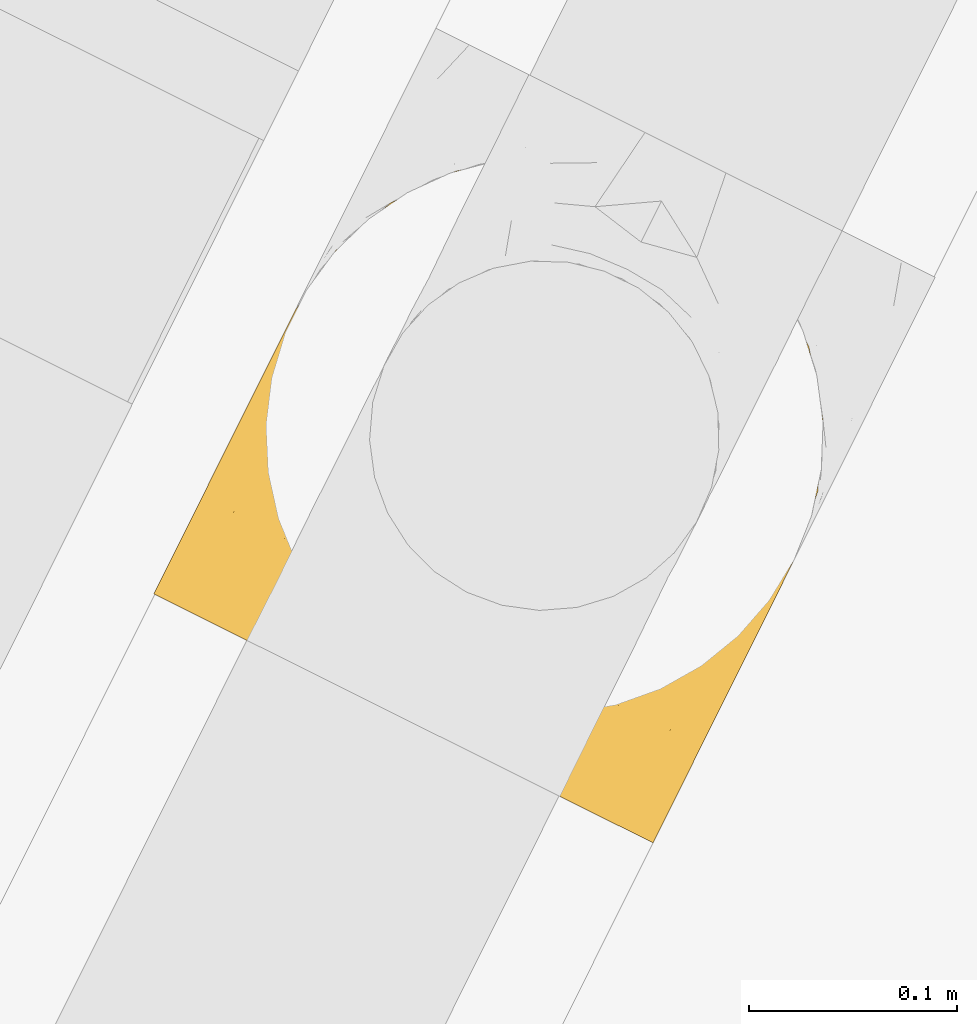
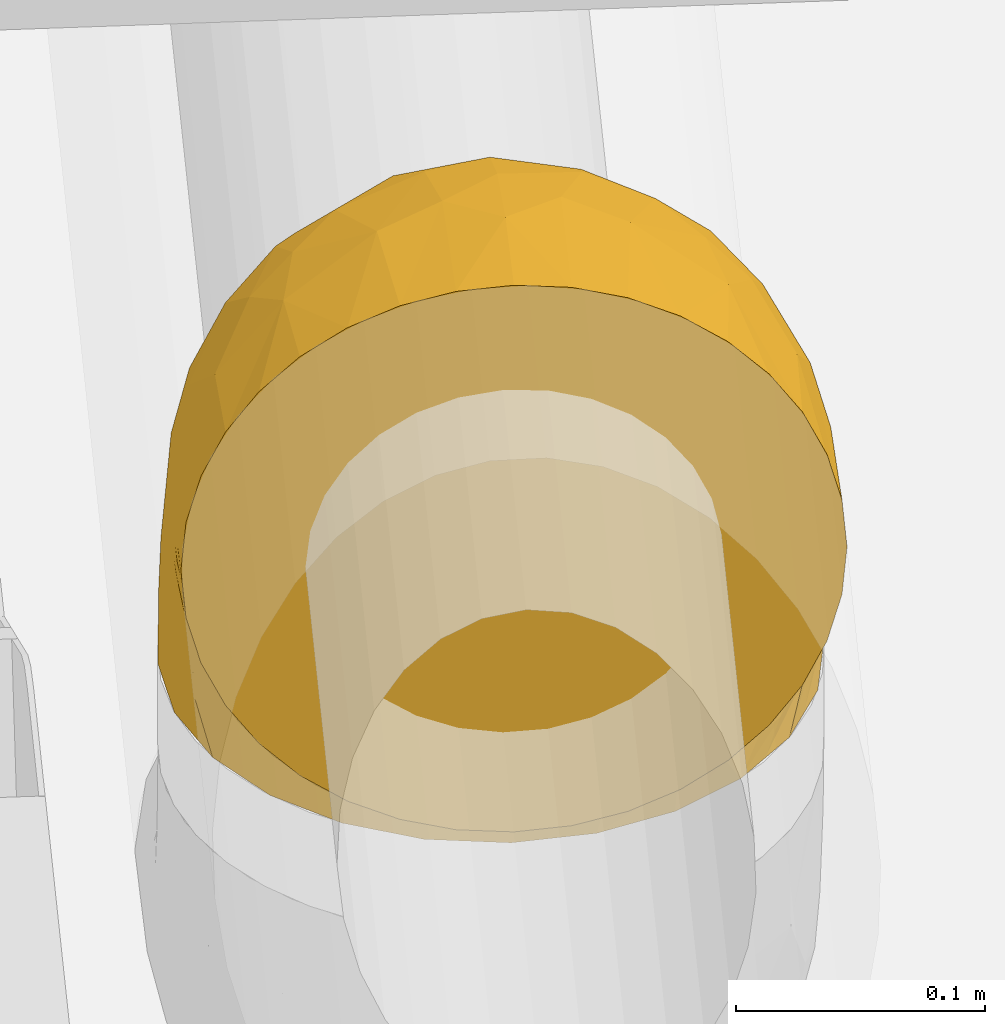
# One storey, part 48 of 91: 1 covering.
"""IFC2X3 building model written with IfcOpenShell, lengths in metres."""

import ifcopenshell
import ifcopenshell.guid

model = None  # the IFC model being written
_history = None  # IfcOwnerHistory: only IFC2X3 demands one
_inside = {}  # id of a spatial element -> (the spatial element, [elements in it])
_under = {}  # id of a project, library or spatial element -> (it, [spatial elements below it])
_declared = {}  # id of a project -> (the project, [libraries it declares])
_typed = {}  # id of a type object -> (the type object, [elements of that type])
_made_of = {}  # id of a material, layer set ... -> (it, [elements and type objects made of it])


def new_model(schema):
    """Start an empty IFC model of exactly this schema.

    Asked for "IFC4X3", IfcOpenShell would pick the latest addendum, in which some entities
    have other attributes; the version numbers below select the first issue.
    IFC2X3 requires an IfcOwnerHistory on every rooted entity: one is made here for all.
    """
    global model, _history
    if schema == "IFC4X3":
        model = ifcopenshell.file(schema_version=(4, 3, 0, 0))
    else:
        model = ifcopenshell.file(schema=schema)
    _inside.clear()
    _under.clear()
    _declared.clear()
    _typed.clear()
    _made_of.clear()
    _history = None
    if model.schema == "IFC2X3":
        org = make("IfcOrganization", Name="unknown")
        user = make(
            "IfcPersonAndOrganization",
            ThePerson=make("IfcPerson", FamilyName="unknown"),
            TheOrganization=org,
        )
        app = make(
            "IfcApplication",
            ApplicationDeveloper=org,
            Version="unknown",
            ApplicationFullName="unknown",
            ApplicationIdentifier="unknown",
        )
        _history = make(
            "IfcOwnerHistory",
            OwningUser=user,
            OwningApplication=app,
            ChangeAction="ADDED",
            CreationDate=0,
        )
    return model


def make(cls, **values):
    """One entity of the class cls with the attributes given. An attribute that is None is left unset."""
    return model.create_entity(
        cls, **{name: value for name, value in values.items() if value is not None}
    )


def entity(cls, *values):
    """Any entity or typed value of the class cls, its attributes in the order of the schema. None: left unset."""
    e = model.create_entity(cls)
    for i, value in enumerate(values):
        if value is not None:
            e[i] = value
    return e


def rooted(cls, **values):
    """An entity with a GlobalId (a new one), such as an element, a storey or a relation."""
    return make(cls, GlobalId=ifcopenshell.guid.new(), OwnerHistory=_history, **values)


def si_unit(unit_type, name, prefix=None):
    """IfcSIUnit, for example si_unit("LENGTHUNIT", "METRE", prefix="MILLI")."""
    return make("IfcSIUnit", UnitType=unit_type, Prefix=prefix, Name=name)


def converted_unit(unit_type, name, factor, base, dimensions=None, offset=None):
    """IfcConversionBasedUnit, such as the inch: factor (a typed value) times the base unit."""
    return make(
        "IfcConversionBasedUnit"
        if offset is None
        else "IfcConversionBasedUnitWithOffset",
        ConversionOffset=offset,
        Dimensions=None
        if dimensions is None
        else entity("IfcDimensionalExponents", *dimensions),
        UnitType=unit_type,
        Name=name,
        ConversionFactor=make(
            "IfcMeasureWithUnit", ValueComponent=factor, UnitComponent=base
        ),
    )


def derived_unit(unit_type, elements):
    """IfcDerivedUnit: a product of units, each with its exponent."""
    return make(
        "IfcDerivedUnit",
        Elements=[
            make("IfcDerivedUnitElement", Unit=unit, Exponent=power)
            for unit, power in elements
        ],
        UnitType=unit_type,
    )


def assignment(units):
    """IfcUnitAssignment: the units of a project."""
    return None if units is None else make("IfcUnitAssignment", Units=units)


def point(xyz):
    """IfcCartesianPoint."""
    return None if xyz is None else make("IfcCartesianPoint", Coordinates=xyz)


def direction(xyz):
    """IfcDirection."""
    return None if xyz is None else make("IfcDirection", DirectionRatios=xyz)


def frame(location, z_axis=None, x_axis=None):
    """IfcAxis2Placement3D, a coordinate frame: its origin and axes. An axis left out is left unset."""
    return make(
        "IfcAxis2Placement3D",
        Location=point(location),
        Axis=direction(z_axis),
        RefDirection=direction(x_axis),
    )


def origin():
    """The frame at (0, 0, 0) with its axes left unset."""
    return frame((0.0, 0.0, 0.0))


def place(relative_to, where):
    """IfcLocalPlacement: puts the frame where relative to a parent placement (None: the world)."""
    return make(
        "IfcLocalPlacement", PlacementRelTo=relative_to, RelativePlacement=where
    )


def context(
    kind, dimensions, precision=None, world=None, true_north=None, identifier=None
):
    """IfcGeometricRepresentationContext, for example the 3D "Model" context."""
    return make(
        "IfcGeometricRepresentationContext",
        ContextIdentifier=identifier,
        ContextType=kind,
        CoordinateSpaceDimension=dimensions,
        Precision=precision,
        WorldCoordinateSystem=world,
        TrueNorth=true_north,
    )


def subcontext(parent, identifier, kind, view, scale=None):
    """IfcGeometricRepresentationSubContext, for example "Body" below "Model"."""
    return make(
        "IfcGeometricRepresentationSubContext",
        ContextIdentifier=identifier,
        ContextType=kind,
        ParentContext=parent,
        TargetScale=scale,
        TargetView=view,
    )


def project(units=None, contexts=None):
    """IfcProject with its units and contexts."""
    return rooted(
        "IfcProject",
        Name="project",
        RepresentationContexts=contexts,
        UnitsInContext=assignment(units),
    )


def spatial(cls, under=None, at=None, **own):
    """A site, building, storey or space (cls), placed at a placement, below another one or the project."""
    s = rooted(cls, ObjectPlacement=at, **own)
    if under is not None:
        _under.setdefault(under.id(), (under, []))[1].append(s)
    return s


def faces_of(points, faces, orient=None, outer=None):
    """IfcFace entities. A face is a list of loops; a loop is a list of indices into points, from 0.

    orient and outer hold one flag for each loop. By default every Orientation is true, the
    first loop of a face is its IfcFaceOuterBound and the others are IfcFaceBound.
    """
    made = []
    for i, loops in enumerate(faces):
        bounds = []
        for j, loop in enumerate(loops):
            is_outer = j == 0 if outer is None else outer[i][j]
            bounds.append(
                make(
                    "IfcFaceOuterBound" if is_outer else "IfcFaceBound",
                    Bound=make("IfcPolyLoop", Polygon=[points[k] for k in loop]),
                    Orientation=True if orient is None else orient[i][j],
                )
            )
        made.append(make("IfcFace", Bounds=bounds))
    return made


def faceted_brep(points, faces, orient=None, outer=None, voids=None):
    """IfcFacetedBrep: a solid bounded by flat faces; with voids (closed shells), ...WithVoids."""
    shared = [point(p) for p in points]
    hull = make("IfcClosedShell", CfsFaces=faces_of(shared, faces, orient, outer))
    if voids is None:
        return make("IfcFacetedBrep", Outer=hull)
    return make(
        "IfcFacetedBrepWithVoids",
        Outer=hull,
        Voids=[
            make(cls, CfsFaces=faces_of(shared, fs, o, b)) for cls, fs, o, b in voids
        ],
    )


def shape(context_of_items, identifier, shape_type, items):
    """IfcShapeRepresentation: the items that make up one representation, for example the "Body"."""
    return make(
        "IfcShapeRepresentation",
        ContextOfItems=context_of_items,
        RepresentationIdentifier=identifier,
        RepresentationType=shape_type,
        Items=items,
    )


def made_of(thing, what):
    """Note that an element or type object is made of a material, layer set ...; save() writes the relation."""
    if what is not None:
        _made_of.setdefault(what.id(), (what, []))[1].append(thing)
    return thing


def element(
    cls,
    number,
    at=None,
    inside=None,
    cuts=None,
    type_object=None,
    material=None,
    context=None,
    identifier="Body",
    shape_type=None,
    held_by="IfcProductDefinitionShape",
    body=None,
    shapes=None,
    **own,
):
    """One element of the class cls, such as IfcWall. Its Tag is "e" and its number.

    at: its placement. inside: the storey or other place that contains it. cuts: it is an
    opening in that element (IfcRelVoidsElement). A single representation is given by context,
    identifier, shape_type and body (its items); several are given by shapes. held_by: the class
    of the entity that holds the representations. save() writes the other relations.
    """
    e = rooted(cls, Tag="e%d" % number, ObjectPlacement=at, **own)
    if body is not None:
        shapes = [shape(context, identifier, shape_type, body)]
    if shapes is not None:
        e.Representation = make(held_by, Representations=shapes)
    if inside is not None:
        _inside.setdefault(inside.id(), (inside, []))[1].append(e)
    if cuts is not None:
        rooted(
            "IfcRelVoidsElement", RelatingBuildingElement=cuts, RelatedOpeningElement=e
        )
    if type_object is not None:
        _typed.setdefault(type_object.id(), (type_object, []))[1].append(e)
    return made_of(e, material)


def aggregate(whole, parts):
    """IfcRelAggregates: a whole, such as a stair, and the parts it consists of."""
    return rooted("IfcRelAggregates", RelatingObject=whole, RelatedObjects=parts)


def save(model, path):
    """Write the relations noted so far, then the file.

    IfcRelAggregates (storeys below a building ...), IfcRelContainedInSpatialStructure (elements
    in a storey), IfcRelDefinesByType, IfcRelAssociatesMaterial and IfcRelDeclares: one each for
    every whole, place, type object, material and project.
    """
    for whole, parts in _under.values():
        aggregate(whole, parts)
    for where, things in _inside.values():
        rooted(
            "IfcRelContainedInSpatialStructure",
            RelatedElements=things,
            RelatingStructure=where,
        )
    for kind, things in _typed.values():
        rooted("IfcRelDefinesByType", RelatedObjects=things, RelatingType=kind)
    for what, things in _made_of.values():
        rooted("IfcRelAssociatesMaterial", RelatedObjects=things, RelatingMaterial=what)
    for by, libraries in _declared.values():
        rooted("IfcRelDeclares", RelatingContext=by, RelatedDefinitions=libraries)
    model.write(path)


model = new_model("IFC2X3")

# Units and contexts
model_context = context("Model", 3, precision=1e-05, world=origin(), true_north=direction((0.894925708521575, 0.446215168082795)))
context_of_model = context(None, 3, precision=1e-05, world=origin(), true_north=direction((0.894925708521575, 0.446215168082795)))
body_context = subcontext(model_context, "Body", "Model", "MODEL_VIEW")
ifc_project = project(units=[si_unit("LENGTHUNIT", "METRE"), si_unit("AREAUNIT", "SQUARE_METRE"), si_unit("VOLUMEUNIT", "CUBIC_METRE"), converted_unit("PLANEANGLEUNIT", "DEGREE", entity("IfcRatioMeasure", 0.0174532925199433), si_unit("PLANEANGLEUNIT", "RADIAN"), dimensions=[0, 0, 0, 0, 0, 0, 0]), si_unit("MASSUNIT", "GRAM", prefix="KILO"), si_unit("TIMEUNIT", "SECOND"), si_unit("FREQUENCYUNIT", "HERTZ"), si_unit("THERMODYNAMICTEMPERATUREUNIT", "DEGREE_CELSIUS"), derived_unit("THERMALTRANSMITTANCEUNIT", [(si_unit("MASSUNIT", "GRAM", prefix="KILO"), 1), (si_unit("THERMODYNAMICTEMPERATUREUNIT", "KELVIN"), -1), (si_unit("TIMEUNIT", "SECOND"), -3)]), derived_unit("VOLUMETRICFLOWRATEUNIT", [(si_unit("LENGTHUNIT", "METRE"), 3), (si_unit("TIMEUNIT", "SECOND"), -1)]), si_unit("ELECTRICCURRENTUNIT", "AMPERE"), si_unit("ELECTRICVOLTAGEUNIT", "VOLT"), si_unit("POWERUNIT", "WATT"), si_unit("FORCEUNIT", "NEWTON", prefix="KILO"), si_unit("ILLUMINANCEUNIT", "LUX"), si_unit("LUMINOUSFLUXUNIT", "LUMEN"), si_unit("LUMINOUSINTENSITYUNIT", "CANDELA"), si_unit("PRESSUREUNIT", "PASCAL")], contexts=[model_context, context_of_model])

# Site, building, storey
site_placement = place(None, frame((218.228324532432, 584.720189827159, 0.0), z_axis=(0.0, 0.0, 1.0), x_axis=(0.446215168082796, 0.894925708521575, 0.0)))
site = spatial("IfcSite", under=ifc_project, at=site_placement, Name="Default", CompositionType="ELEMENT")
building_placement = place(site_placement, origin())
building = spatial("IfcBuilding", under=site, at=building_placement, CompositionType="ELEMENT")
storey_placement = place(building_placement, origin())
storey = spatial("IfcBuildingStorey", under=building, at=storey_placement, Name="0 - Piano Terra", CompositionType="ELEMENT", Elevation=0.0)

# Covering
covering_placement = place(storey_placement, frame((-13.5826692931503, -4.52096176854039, 3.74640472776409)))
element("IfcCovering", 1, at=covering_placement, inside=storey, Name="Isolamento tubazione:Default", ObjectType="Isolamento tubazione:Default", PredefinedType="INSULATION", context=body_context, shape_type="Brep", body=[
    faceted_brep([(0.00159527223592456, 0.00968458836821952, 0.199474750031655), (0.00159527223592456, 0.0195677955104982, 0.220669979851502), (0.00159527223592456, 0.0329822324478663, 0.239827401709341), (0.00159527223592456, 0.0495196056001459, 0.256363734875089), (0.00159527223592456, 0.0686761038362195, 0.269775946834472), (0.00159527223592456, 0.0898679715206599, 0.27965674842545), (0.00159527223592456, 0.112451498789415, 0.285707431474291), (0.00159527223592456, 0.135745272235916, 0.287745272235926), (0.00159527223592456, 0.159037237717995, 0.285707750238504), (0.00159527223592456, 0.181624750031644, 0.279655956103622), (0.00159527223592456, 0.202819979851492, 0.269772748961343), (0.00159527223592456, 0.22197740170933, 0.256358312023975), (0.00159527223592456, 0.238513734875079, 0.239820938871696), (0.00159527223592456, 0.251925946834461, 0.220664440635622), (0.00159527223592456, 0.26180674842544, 0.199472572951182), (0.00159527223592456, 0.267857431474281, 0.176889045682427), (0.00159527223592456, 0.269895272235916, 0.153595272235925), (0.00159527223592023, 0.268609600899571, 0.138898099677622), (0.00159527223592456, 0.267857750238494, 0.130303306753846), (0.00159527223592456, 0.261805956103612, 0.107715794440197), (0.00159527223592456, 0.251922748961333, 0.0865205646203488), (0.00159527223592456, 0.238508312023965, 0.0673631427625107), (0.00159527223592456, 0.221970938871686, 0.0508268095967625), (0.00159527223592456, 0.202814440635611, 0.0374145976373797), (0.00159527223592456, 0.181622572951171, 0.0275337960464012), (0.00159527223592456, 0.159039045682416, 0.0214831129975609), (0.00159527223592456, 0.135745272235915, 0.0194452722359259), (0.00159527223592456, 0.112453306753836, 0.0214827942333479), (0.00159527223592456, 0.0898657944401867, 0.0275345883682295), (0.00159527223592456, 0.0686705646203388, 0.0374177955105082), (0.00159527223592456, 0.0495131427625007, 0.0508322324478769), (0.00159527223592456, 0.0329768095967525, 0.0673696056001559), (0.00159527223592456, 0.0195645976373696, 0.0865261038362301), (0.00159527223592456, 0.00968379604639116, 0.10771797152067), (0.00159527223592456, 0.00363311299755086, 0.130301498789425), (0.00159527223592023, 0.00288104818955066, 0.138898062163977), (0.00159527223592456, 0.0015952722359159, 0.153595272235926), (0.00159527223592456, 0.00363279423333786, 0.176887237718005), (0.0194452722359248, 0.135745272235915, 0.0015952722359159), (0.024016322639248, 0.170465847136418, 0.0015952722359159), (0.0374179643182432, 0.202820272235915, 0.0015952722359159), (0.0587368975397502, 0.230603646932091, 0.0015952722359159), (0.0726285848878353, 0.241263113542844, 0.0015952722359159), (0.0865202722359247, 0.251922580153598, 0.0015952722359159), (0.102697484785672, 0.258623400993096, 0.0015952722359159), (0.118874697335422, 0.265324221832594, 0.0015952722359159), (0.138673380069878, 0.267930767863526, 0.00159527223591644), (0.153595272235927, 0.269895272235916, 0.00159527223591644), (0.188315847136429, 0.265324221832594, 0.00159527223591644), (0.220670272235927, 0.251922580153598, 0.00159527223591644), (0.248453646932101, 0.230603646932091, 0.00159527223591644), (0.269772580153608, 0.202820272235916, 0.00159527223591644), (0.283174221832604, 0.170465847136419, 0.00159527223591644), (0.287745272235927, 0.135745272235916, 0.00159527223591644), (0.283174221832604, 0.101024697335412, 0.00159527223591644), (0.269772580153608, 0.0686702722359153, 0.00159527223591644), (0.248453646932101, 0.0408868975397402, 0.00159527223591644), (0.220670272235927, 0.0195679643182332, 0.00159527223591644), (0.188315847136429, 0.00616632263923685, 0.00159527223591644), (0.153595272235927, 0.00159527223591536, 0.00159527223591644), (0.138673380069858, 0.00355977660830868, 0.00159527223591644), (0.118874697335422, 0.00616632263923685, 0.0015952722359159), (0.102697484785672, 0.0128671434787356, 0.00159527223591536), (0.0865202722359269, 0.0195679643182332, 0.0015952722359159), (0.0726285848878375, 0.0302274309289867, 0.0015952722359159), (0.0587368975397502, 0.0408868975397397, 0.0015952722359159), (0.0374179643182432, 0.0686702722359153, 0.0015952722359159), (0.024016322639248, 0.101024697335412, 0.0015952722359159), (0.271314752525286, 0.0978975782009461, 0.0793389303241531), (0.282246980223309, 0.135745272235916, 0.0574203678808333), (0.265963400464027, 0.135745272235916, 0.11110013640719), (0.0574203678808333, 0.135745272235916, 0.282246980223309), (0.082098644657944, 0.11177261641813, 0.273936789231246), (0.11110013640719, 0.135745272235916, 0.265963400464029), (0.130709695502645, 0.100505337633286, 0.251669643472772), (0.125328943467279, 0.0712492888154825, 0.241156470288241), (0.17905625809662, 0.0978507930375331, 0.219063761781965), (0.248670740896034, 0.103999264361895, 0.138231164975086), (0.242351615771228, 0.0722251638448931, 0.124159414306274), (0.206901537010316, 0.0160910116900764, 0.0570178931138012), (0.184829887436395, 0.058552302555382, 0.188464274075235), (0.138701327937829, 0.0480332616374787, 0.214821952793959), (0.13351854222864, 0.0275482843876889, 0.191593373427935), (0.231170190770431, 0.0374034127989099, 0.0819819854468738), (0.239520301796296, 0.135745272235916, 0.16057169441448), (0.0963262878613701, 0.0106572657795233, 0.178269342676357), (0.14415060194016, 0.0137471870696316, 0.152774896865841), (0.203933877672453, 0.135745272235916, 0.203933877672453), (0.16057169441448, 0.135745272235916, 0.239520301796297), (0.174453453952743, 0.00879690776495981, 0.0926265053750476), (0.174763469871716, 0.00413805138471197, 0.0427674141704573), (0.257512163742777, 0.0597755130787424, 0.0603098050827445), (0.089085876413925, 0.0346326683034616, 0.225253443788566), (0.195203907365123, 0.0201514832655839, 0.106232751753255), (0.148415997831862, 0.0015952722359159, 0.0409357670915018), (0.150075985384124, 0.0015952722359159, 0.028326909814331), (0.151735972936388, 0.0015952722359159, 0.0157180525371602), (0.133231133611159, 0.0015952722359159, 0.0775952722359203), (0.14082356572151, 0.0015952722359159, 0.0592655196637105), (0.0542155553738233, 0.0184912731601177, 0.212298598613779), (0.216229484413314, 0.0852623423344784, 0.175571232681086), (0.221437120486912, 0.112239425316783, 0.181506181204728), (0.114385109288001, 0.00457586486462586, 0.142030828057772), (0.053418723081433, 0.0460705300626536, 0.247977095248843), (0.109075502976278, 0.0015952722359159, 0.109075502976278), (0.121153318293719, 0.0015952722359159, 0.0933353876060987), (0.0692840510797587, 0.0846630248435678, 0.269211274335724), (0.216476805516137, 0.0628689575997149, 0.156043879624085), (0.209477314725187, 0.0355258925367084, 0.123868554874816), (0.178111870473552, 0.0271302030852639, 0.150188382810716), (0.0727455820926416, 0.00380519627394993, 0.16284515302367), (0.0157180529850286, 0.0015952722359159, 0.151735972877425), (0.0283269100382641, 0.0015952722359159, 0.150075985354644), (0.0409357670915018, 0.0015952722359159, 0.148415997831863), (0.0775952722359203, 0.0015952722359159, 0.133231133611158), (0.0933353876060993, 0.0015952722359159, 0.121153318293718), (0.101205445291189, 0.0015952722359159, 0.115114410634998), (0.0985026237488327, 0.0525693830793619, 0.239896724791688), (0.230568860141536, 0.0516583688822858, 0.117252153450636), (0.0592655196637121, 0.0015952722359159, 0.140823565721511), (0.0459388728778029, 0.0140501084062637, 0.0862333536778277), (0.0581385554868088, 0.00515149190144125, 0.108928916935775), (0.034828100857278, 0.00998506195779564, 0.101516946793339), (0.116556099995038, 0.00597455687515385, 0.0282177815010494), (0.118774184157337, 0.00407410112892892, 0.048802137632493), (0.0967572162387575, 0.0131113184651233, 0.0233658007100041), (0.0267051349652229, 0.0372902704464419, 0.0570559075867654), (0.0183768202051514, 0.0618583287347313, 0.0379394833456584), (0.0779077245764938, 0.0238766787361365, 0.0175473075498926), (0.065164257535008, 0.0329408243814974, 0.0186508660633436), (0.0857137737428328, 0.00860195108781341, 0.0712470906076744), (0.0129209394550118, 0.108517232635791, 0.0188530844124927), (0.0507267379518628, 0.0472120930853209, 0.0160462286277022), (0.0483204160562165, 0.043332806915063, 0.030145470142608), (0.0344198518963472, 0.0677174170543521, 0.0172767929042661), (0.0825972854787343, 0.00552610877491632, 0.0898107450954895), (0.0217256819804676, 0.098760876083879, 0.0128211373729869), (0.0208548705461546, 0.0809337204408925, 0.0240178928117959), (0.0412635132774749, 0.0419407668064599, 0.041263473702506), (0.0624822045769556, 0.0232259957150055, 0.0518606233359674), (0.0142171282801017, 0.135745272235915, 0.0142171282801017), (0.032255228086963, 0.0425649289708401, 0.0478490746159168), (0.0575657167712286, 0.0174802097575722, 0.0703790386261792), (0.109061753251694, 0.00424775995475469, 0.066325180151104), (0.094700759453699, 0.0120623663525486, 0.038221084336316), (0.0267645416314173, 0.00575824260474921, 0.117739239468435), (0.0384038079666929, 0.0053927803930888, 0.11613299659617), (0.0554200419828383, 0.00335207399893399, 0.120325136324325), (0.0209965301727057, 0.0269382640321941, 0.0725214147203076), (0.0280072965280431, 0.0595709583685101, 0.0337025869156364), (0.0701367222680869, 0.00501283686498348, 0.10241564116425), (0.0861174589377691, 0.0136501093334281, 0.0479963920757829), (0.126009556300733, 0.00420057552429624, 0.0194576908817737), (0.0648331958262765, 0.029030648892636, 0.033229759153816), (0.0651641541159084, 0.238549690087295, 0.0186511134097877), (0.050726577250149, 0.224278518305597, 0.0160469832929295), (0.0648336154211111, 0.24246051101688, 0.033230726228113), (0.0267056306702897, 0.234195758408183, 0.0570503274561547), (0.0197308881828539, 0.165365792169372, 0.0124987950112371), (0.0209997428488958, 0.244549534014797, 0.0725165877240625), (0.055420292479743, 0.268137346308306, 0.120317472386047), (0.0775952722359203, 0.269895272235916, 0.133231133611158), (0.0581446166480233, 0.266339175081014, 0.108926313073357), (0.0344201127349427, 0.203774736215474, 0.0172784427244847), (0.057558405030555, 0.254003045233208, 0.0703674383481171), (0.0459445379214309, 0.257439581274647, 0.0862283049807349), (0.0124412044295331, 0.165959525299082, 0.0199234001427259), (0.0208529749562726, 0.190554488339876, 0.024018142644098), (0.150075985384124, 0.269895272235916, 0.0283269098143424), (0.151735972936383, 0.269895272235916, 0.0157180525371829), (0.0857133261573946, 0.262888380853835, 0.0712466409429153), (0.0624792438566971, 0.248264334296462, 0.0518636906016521), (0.11877418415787, 0.267416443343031, 0.0488021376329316), (0.133231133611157, 0.269895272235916, 0.0775952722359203), (0.14082356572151, 0.269895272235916, 0.0592655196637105), (0.0409357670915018, 0.269895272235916, 0.148415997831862), (0.05926551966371, 0.269895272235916, 0.14082356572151), (0.0267635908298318, 0.265731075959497, 0.117734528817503), (0.0967571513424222, 0.25837919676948, 0.0233657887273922), (0.0779077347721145, 0.24761387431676, 0.0175473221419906), (0.116556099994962, 0.265515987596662, 0.0282177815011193), (0.032250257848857, 0.228915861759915, 0.0478410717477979), (0.0183734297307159, 0.209625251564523, 0.0379359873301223), (0.0280045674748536, 0.211915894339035, 0.0337015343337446), (0.0157180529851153, 0.269895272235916, 0.151735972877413), (0.0283269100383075, 0.269895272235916, 0.150075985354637), (0.0348301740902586, 0.261503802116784, 0.101511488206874), (0.0412596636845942, 0.229543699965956, 0.0412589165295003), (0.0701406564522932, 0.266477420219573, 0.102411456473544), (0.0825925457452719, 0.265962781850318, 0.089806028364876), (0.109075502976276, 0.269895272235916, 0.109075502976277), (0.0384043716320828, 0.266096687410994, 0.116128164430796), (0.109061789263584, 0.267242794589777, 0.0663252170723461), (0.0933353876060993, 0.269895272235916, 0.121153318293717), (0.0861177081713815, 0.257840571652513, 0.0479965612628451), (0.0947007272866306, 0.259428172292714, 0.0382211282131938), (0.101205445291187, 0.269895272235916, 0.115114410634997), (0.121153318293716, 0.269895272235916, 0.0933353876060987), (0.0483209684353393, 0.228158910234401, 0.0301467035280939), (0.126009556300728, 0.267289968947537, 0.0194576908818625), (0.148415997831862, 0.269895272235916, 0.0409357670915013), (0.257512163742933, 0.211715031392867, 0.0603098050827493), (0.0542150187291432, 0.253001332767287, 0.212294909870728), (0.0963259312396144, 0.260833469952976, 0.178268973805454), (0.133521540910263, 0.243943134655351, 0.191589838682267), (0.08908855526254, 0.236862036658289, 0.225247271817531), (0.174453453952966, 0.262693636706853, 0.0926265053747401), (0.174763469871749, 0.267352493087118, 0.0427674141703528), (0.114384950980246, 0.266914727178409, 0.142030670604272), (0.184842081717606, 0.212936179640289, 0.188454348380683), (0.125336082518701, 0.200246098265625, 0.241149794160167), (0.179056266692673, 0.173639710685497, 0.219063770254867), (0.0985045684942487, 0.218925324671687, 0.239892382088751), (0.0692885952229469, 0.186830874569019, 0.269208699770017), (0.206901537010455, 0.255399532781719, 0.0570178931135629), (0.209477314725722, 0.235964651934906, 0.123868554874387), (0.230568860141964, 0.219832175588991, 0.117252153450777), (0.231170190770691, 0.234087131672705, 0.0819819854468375), (0.271314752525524, 0.17359296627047, 0.0793389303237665), (0.195203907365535, 0.251339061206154, 0.106232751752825), (0.248670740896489, 0.16749128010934, 0.138231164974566), (0.242351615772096, 0.199265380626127, 0.124159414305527), (0.138706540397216, 0.223454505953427, 0.214821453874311), (0.0727457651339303, 0.267685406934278, 0.162844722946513), (0.216229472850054, 0.186228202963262, 0.175571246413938), (0.178111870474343, 0.244360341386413, 0.150188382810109), (0.144150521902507, 0.257743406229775, 0.152774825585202), (0.053419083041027, 0.225425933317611, 0.247971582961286), (0.221437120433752, 0.159251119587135, 0.181506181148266), (0.0820983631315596, 0.159719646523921, 0.27393654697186), (0.1350458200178, 0.163547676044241, 0.251423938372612), (0.216481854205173, 0.208621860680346, 0.156036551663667)], [[[0, 1, 2, 3, 4, 5, 6, 7, 8, 9, 10, 11, 12, 13, 14, 15, 16, 17, 18, 19, 20, 21, 22, 23, 24, 25, 26, 27, 28, 29, 30, 31, 32, 33, 34, 35, 36, 37]], [[38, 39, 40, 41, 42, 43, 44, 45, 46, 47, 48, 49, 50, 51, 52, 53, 54, 55, 56, 57, 58, 59, 60, 61, 62, 63, 64, 65, 66, 67]], [[68, 69, 70]], [[69, 54, 53]], [[71, 72, 73]], [[74, 75, 76]], [[68, 77, 78]], [[79, 58, 57]], [[68, 55, 54]], [[80, 81, 82]], [[83, 57, 56]], [[84, 77, 70]], [[85, 86, 82]], [[76, 87, 88]], [[89, 90, 79]], [[91, 83, 56]], [[92, 82, 81]], [[89, 93, 86]], [[90, 94, 95, 96, 59]], [[90, 97, 98, 94]], [[99, 1, 0]], [[59, 58, 90]], [[100, 101, 76]], [[102, 86, 85]], [[89, 102, 97]], [[100, 78, 77]], [[103, 99, 92]], [[102, 104, 105, 97]], [[55, 91, 56]], [[74, 73, 72]], [[72, 6, 5]], [[4, 106, 5]], [[80, 107, 100]], [[106, 72, 5]], [[82, 99, 85]], [[3, 103, 4]], [[108, 109, 93]], [[71, 7, 6]], [[76, 75, 80]], [[103, 3, 2]], [[54, 69, 68]], [[110, 36, 111, 112, 113]], [[2, 1, 103]], [[110, 114, 102]], [[102, 114, 115, 116, 104]], [[36, 110, 37]], [[4, 103, 106]], [[99, 37, 85]], [[79, 93, 89]], [[102, 85, 110]], [[117, 103, 92]], [[117, 106, 103]], [[1, 99, 103]], [[107, 108, 118]], [[37, 99, 0]], [[73, 74, 88]], [[89, 86, 102]], [[68, 78, 91]], [[82, 86, 109]], [[80, 82, 109]], [[82, 92, 99]], [[68, 91, 55]], [[118, 91, 78]], [[6, 72, 71]], [[74, 106, 75]], [[80, 75, 81]], [[117, 81, 75]], [[57, 83, 79]], [[83, 108, 93]], [[37, 110, 85]], [[110, 113, 119, 114]], [[81, 117, 92]], [[106, 117, 75]], [[70, 77, 68]], [[84, 87, 101]], [[77, 84, 101]], [[80, 100, 76]], [[76, 101, 87]], [[77, 101, 100]], [[83, 93, 79]], [[86, 93, 109]], [[118, 108, 83]], [[80, 109, 108]], [[91, 118, 83]], [[107, 118, 78]], [[100, 107, 78]], [[108, 107, 80]], [[79, 90, 58]], [[90, 89, 97]], [[88, 74, 76]], [[106, 74, 72]], [[120, 121, 122]], [[60, 59, 96, 95, 61]], [[123, 124, 125]], [[126, 29, 127]], [[127, 29, 28]], [[123, 98, 124]], [[128, 129, 65]], [[104, 130, 105]], [[131, 27, 26]], [[62, 123, 63]], [[132, 133, 134]], [[104, 116, 135]], [[38, 67, 136]], [[137, 136, 134]], [[138, 133, 139]], [[140, 38, 136]], [[131, 136, 137]], [[126, 141, 142]], [[127, 28, 137]], [[124, 143, 144]], [[145, 33, 32]], [[65, 129, 132]], [[146, 122, 147]], [[148, 122, 31]], [[149, 127, 137]], [[33, 113, 112]], [[35, 34, 112, 111, 36]], [[134, 67, 66]], [[120, 126, 142]], [[33, 145, 113]], [[140, 131, 26]], [[141, 126, 127]], [[126, 120, 148]], [[30, 148, 31]], [[33, 112, 34]], [[28, 27, 131]], [[126, 30, 29]], [[121, 147, 122]], [[31, 122, 32]], [[128, 125, 144]], [[115, 121, 150]], [[121, 115, 114]], [[97, 105, 143]], [[130, 104, 135]], [[139, 142, 138]], [[143, 151, 144]], [[123, 94, 98]], [[62, 61, 152]], [[123, 62, 152]], [[98, 97, 124]], [[143, 124, 97]], [[125, 124, 144]], [[126, 148, 30]], [[122, 148, 120]], [[66, 65, 132]], [[149, 134, 138]], [[125, 128, 64]], [[123, 125, 63]], [[64, 128, 65]], [[64, 63, 125]], [[144, 151, 129]], [[144, 129, 128]], [[129, 153, 132]], [[133, 132, 153]], [[134, 66, 132]], [[153, 151, 139]], [[138, 134, 133]], [[153, 139, 133]], [[142, 139, 130]], [[146, 32, 122]], [[113, 145, 119]], [[94, 152, 95]], [[28, 131, 137]], [[136, 131, 140]], [[134, 136, 67]], [[134, 149, 137]], [[141, 149, 138]], [[149, 141, 127]], [[142, 141, 138]], [[121, 120, 150]], [[147, 121, 114]], [[120, 142, 150]], [[150, 116, 115]], [[135, 150, 142]], [[150, 135, 116]], [[130, 135, 142]], [[114, 119, 147]], [[146, 119, 145]], [[119, 146, 147]], [[32, 146, 145]], [[105, 130, 143]], [[130, 139, 151]], [[130, 151, 143]], [[129, 151, 153]], [[95, 152, 61]], [[123, 152, 94]], [[154, 155, 156]], [[22, 157, 23]], [[38, 140, 158]], [[22, 159, 157]], [[160, 161, 162]], [[39, 158, 163]], [[164, 157, 165]], [[166, 24, 167]], [[168, 169, 47, 46, 45]], [[164, 170, 171]], [[172, 173, 174]], [[175, 176, 177]], [[178, 42, 179]], [[41, 155, 154]], [[39, 163, 40]], [[43, 180, 44]], [[181, 182, 157]], [[182, 183, 167]], [[166, 167, 158]], [[19, 177, 20]], [[17, 16, 184, 185, 18]], [[182, 167, 24]], [[23, 182, 24]], [[186, 21, 20]], [[181, 164, 187]], [[188, 165, 162]], [[22, 21, 159]], [[170, 189, 190]], [[159, 186, 165]], [[191, 20, 177]], [[173, 172, 192]], [[167, 163, 158]], [[23, 157, 182]], [[185, 175, 19]], [[18, 185, 19]], [[162, 165, 186]], [[193, 188, 162]], [[166, 26, 25]], [[194, 170, 192]], [[154, 195, 179]], [[190, 189, 196]], [[172, 174, 180]], [[170, 190, 197]], [[192, 197, 173]], [[156, 198, 171]], [[199, 45, 44]], [[172, 178, 195]], [[180, 200, 199]], [[200, 180, 174]], [[178, 180, 43]], [[192, 172, 195]], [[186, 159, 21]], [[157, 159, 165]], [[183, 163, 167]], [[155, 198, 156]], [[180, 178, 172]], [[42, 41, 179]], [[178, 43, 42]], [[154, 179, 41]], [[178, 179, 195]], [[155, 41, 40]], [[154, 156, 194]], [[40, 163, 155]], [[198, 155, 163]], [[163, 187, 198]], [[171, 198, 187]], [[164, 171, 187]], [[171, 170, 194]], [[175, 177, 19]], [[176, 160, 191]], [[199, 168, 45]], [[38, 158, 39]], [[140, 26, 166]], [[140, 166, 158]], [[24, 166, 25]], [[164, 181, 157]], [[183, 181, 187]], [[181, 183, 182]], [[163, 183, 187]], [[160, 162, 186]], [[193, 162, 161]], [[188, 193, 196]], [[164, 165, 188]], [[189, 170, 164]], [[196, 189, 188]], [[188, 189, 164]], [[191, 160, 186]], [[176, 161, 160]], [[20, 191, 186]], [[176, 191, 177]], [[194, 192, 195]], [[170, 197, 192]], [[154, 194, 195]], [[194, 156, 171]], [[180, 199, 44]], [[168, 199, 200]], [[201, 51, 50]], [[15, 202, 203]], [[204, 202, 205]], [[173, 206, 207]], [[207, 200, 174, 173]], [[47, 207, 48]], [[208, 190, 196, 193, 161]], [[209, 210, 211]], [[13, 202, 14]], [[208, 173, 197, 190]], [[212, 213, 210]], [[48, 207, 214]], [[69, 53, 52]], [[203, 202, 204]], [[215, 216, 217]], [[201, 218, 51]], [[202, 15, 14]], [[70, 69, 218]], [[217, 214, 219]], [[220, 218, 221]], [[201, 50, 217]], [[49, 217, 50]], [[220, 70, 218]], [[222, 209, 204]], [[223, 161, 176, 175]], [[224, 209, 211]], [[204, 225, 226]], [[206, 208, 226]], [[16, 15, 223]], [[15, 203, 223]], [[13, 12, 227]], [[214, 49, 48]], [[202, 227, 205]], [[69, 52, 218]], [[51, 218, 52]], [[202, 13, 227]], [[217, 219, 215]], [[228, 87, 84]], [[73, 229, 71]], [[88, 211, 230]], [[211, 88, 87]], [[11, 227, 12]], [[9, 213, 10]], [[10, 213, 227]], [[229, 8, 71]], [[173, 208, 206]], [[7, 71, 8]], [[213, 229, 230]], [[226, 208, 203]], [[212, 205, 227]], [[228, 220, 224]], [[213, 230, 210]], [[225, 204, 209]], [[208, 223, 203]], [[10, 227, 11]], [[9, 8, 229]], [[226, 225, 219]], [[203, 204, 226]], [[204, 205, 222]], [[216, 201, 217]], [[218, 201, 221]], [[88, 230, 73]], [[229, 213, 9]], [[212, 222, 205]], [[210, 209, 222]], [[219, 214, 206]], [[217, 49, 214]], [[161, 223, 208]], [[223, 175, 185, 184, 16]], [[213, 212, 227]], [[222, 212, 210]], [[224, 220, 221]], [[70, 220, 84]], [[224, 221, 231]], [[228, 211, 87]], [[220, 228, 84]], [[211, 228, 224]], [[226, 219, 206]], [[219, 225, 215]], [[225, 209, 215]], [[216, 231, 221]], [[231, 215, 209]], [[201, 216, 221]], [[215, 231, 216]], [[224, 231, 209]], [[207, 47, 169, 168, 200]], [[214, 207, 206]], [[210, 230, 211]], [[73, 230, 229]]]),
])

save(model, "model.ifc")
